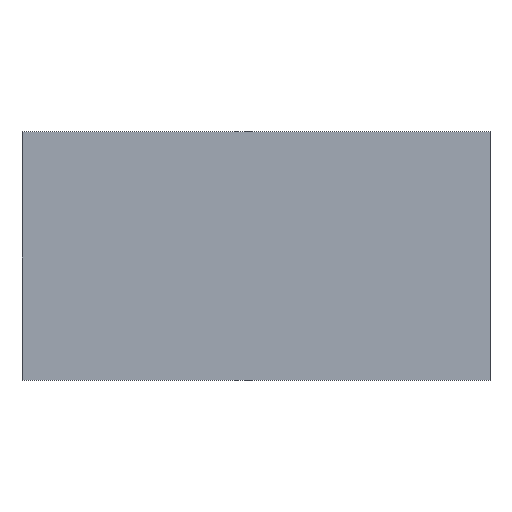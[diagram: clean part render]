
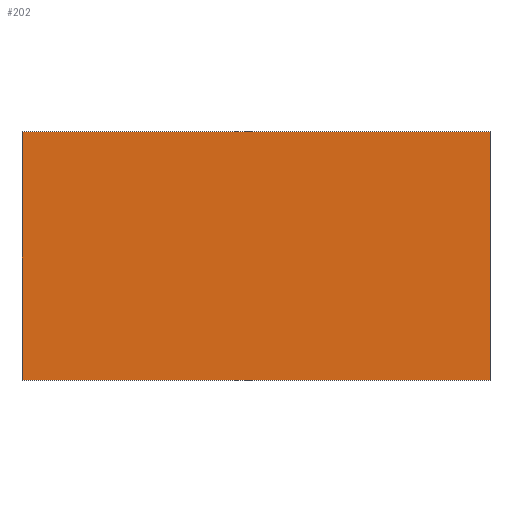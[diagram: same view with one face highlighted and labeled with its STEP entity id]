
A CAD part, top view. The second image highlights one B-rep face of the part: STEP entity #202.
In plain terms, the highlighted planar face has unit normal (0, 0, 1).
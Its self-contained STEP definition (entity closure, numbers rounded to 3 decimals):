
#8 = EDGE_CURVE ( 'NONE', #195, #185, #162, .T. ) ;
#14 = AXIS2_PLACEMENT_3D ( 'NONE', #49, #33, #34 ) ;
#16 = EDGE_CURVE ( 'NONE', #177, #168, #128, .T. ) ;
#17 = EDGE_CURVE ( 'NONE', #168, #195, #119, .T. ) ;
#24 = EDGE_CURVE ( 'NONE', #185, #177, #99, .T. ) ;
#33 = DIRECTION ( 'NONE',  ( 0., 0., -1. ) ) ;
#34 = DIRECTION ( 'NONE',  ( 0., 1., 0. ) ) ;
#35 = CARTESIAN_POINT ( 'NONE',  ( -451., 479., 6. ) ) ;
#49 = CARTESIAN_POINT ( 'NONE',  ( -451., 479., 6. ) ) ;
#52 = PLANE ( 'NONE',  #14 ) ;
#72 = CARTESIAN_POINT ( 'NONE',  ( -451., 479., 6. ) ) ;
#73 = DIRECTION ( 'NONE',  ( -1., 0., 0. ) ) ;
#78 = CARTESIAN_POINT ( 'NONE',  ( 451., 0., 6. ) ) ;
#81 = DIRECTION ( 'NONE',  ( 1., 0., 0. ) ) ;
#84 = CARTESIAN_POINT ( 'NONE',  ( -451., 0., 6. ) ) ;
#89 = DIRECTION ( 'NONE',  ( 0., -1., 0. ) ) ;
#99 = LINE ( 'NONE', #72, #111 ) ;
#103 = ORIENTED_EDGE ( 'NONE', *, *, #8, .T. ) ;
#111 = VECTOR ( 'NONE', #73, 1000. ) ;
#119 = LINE ( 'NONE', #84, #149 ) ;
#124 = EDGE_LOOP ( 'NONE', ( #136, #141, #103, #126 ) ) ;
#126 = ORIENTED_EDGE ( 'NONE', *, *, #24, .T. ) ;
#128 = LINE ( 'NONE', #169, #146 ) ;
#136 = ORIENTED_EDGE ( 'NONE', *, *, #16, .T. ) ;
#141 = ORIENTED_EDGE ( 'NONE', *, *, #17, .T. ) ;
#146 = VECTOR ( 'NONE', #89, 1000. ) ;
#149 = VECTOR ( 'NONE', #81, 1000. ) ;
#154 = FACE_OUTER_BOUND ( 'NONE', #124, .T. ) ;
#161 = VECTOR ( 'NONE', #186, 1000. ) ;
#162 = LINE ( 'NONE', #189, #161 ) ;
#168 = VERTEX_POINT ( 'NONE', #174 ) ;
#169 = CARTESIAN_POINT ( 'NONE',  ( -451., 0., 6. ) ) ;
#172 = CARTESIAN_POINT ( 'NONE',  ( 451., 479., 6. ) ) ;
#174 = CARTESIAN_POINT ( 'NONE',  ( -451., 0., 6. ) ) ;
#177 = VERTEX_POINT ( 'NONE', #35 ) ;
#185 = VERTEX_POINT ( 'NONE', #172 ) ;
#186 = DIRECTION ( 'NONE',  ( 0., 1., 0. ) ) ;
#189 = CARTESIAN_POINT ( 'NONE',  ( 451., 0., 6. ) ) ;
#195 = VERTEX_POINT ( 'NONE', #78 ) ;
#202 = ADVANCED_FACE ( 'NONE', ( #154 ), #52, .F. ) ;
